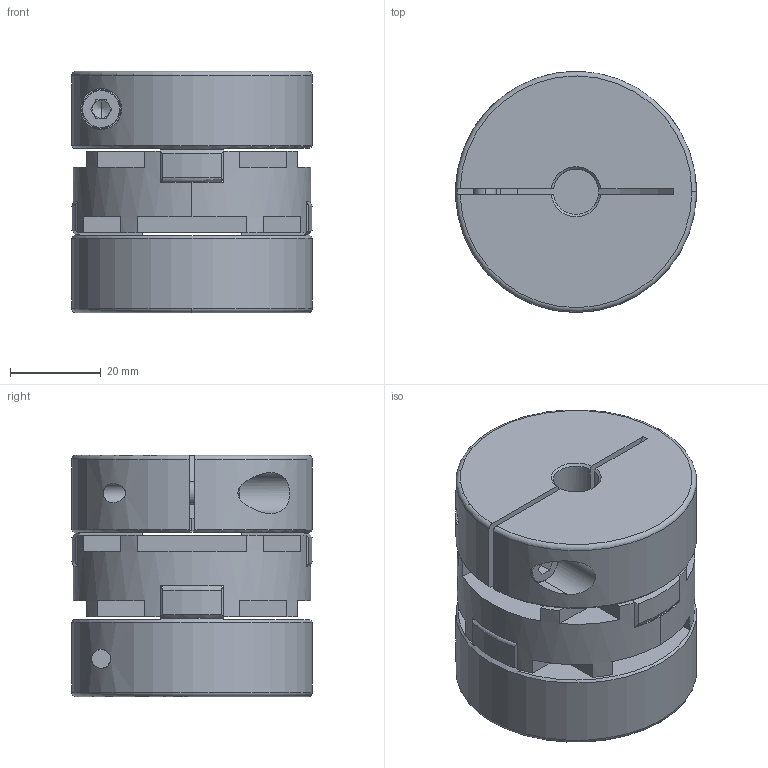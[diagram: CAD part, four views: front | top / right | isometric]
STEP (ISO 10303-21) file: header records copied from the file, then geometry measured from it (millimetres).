
FILE_DESCRIPTION (( 'STEP AP203' ), '1' );
FILE_NAME ('SOHM-53C-10X25_203.STEP', '2013-01-29T01:11:05', ( '' ), ( '' ), 'SwSTEP 2.0', 'SolidWorks 2012', '' );
FILE_SCHEMA (( 'CONFIG_CONTROL_DESIGN' ));
Length unit declared in the file: millimetre
Products named in the file (1): SOHM-53C-10X25_203
Bounding box: 53 x 53 x 53.1 mm (x, y, z)
Volume: 88627.3 mm3; surface area: 25731 mm2
Topology: 1 solids, 1 shells, 240 faces, 685 edges, 435 vertices
Faces by surface type: plane 146, cylinder 47, torus 24, cone 23
Entity records: 8311 total; most frequent: CARTESIAN_POINT 1980, ORIENTED_EDGE 1362, DIRECTION 1268, EDGE_CURVE 681, AXIS2_PLACEMENT_3D 437, VERTEX_POINT 435, VECTOR 394, LINE 394
